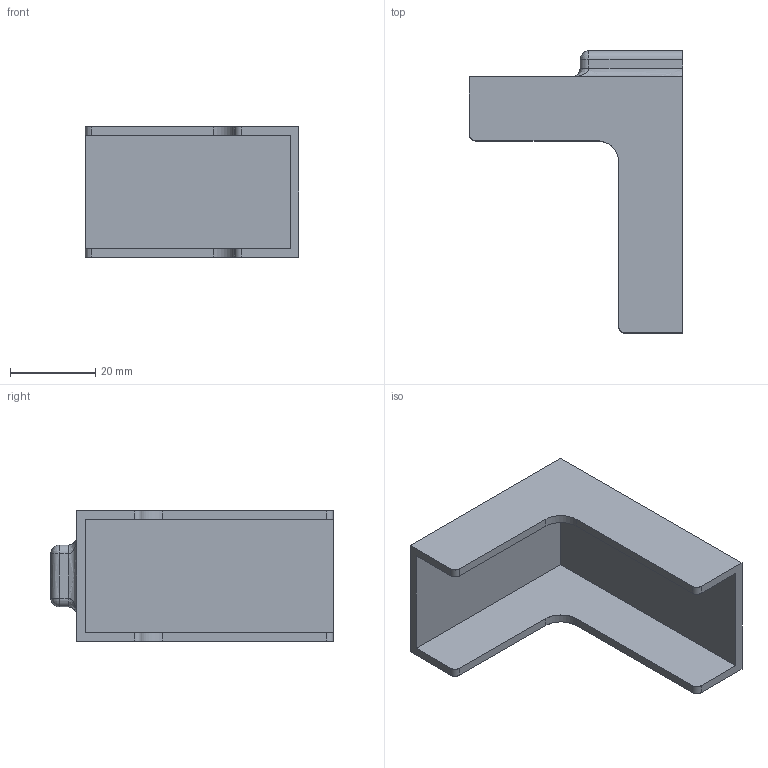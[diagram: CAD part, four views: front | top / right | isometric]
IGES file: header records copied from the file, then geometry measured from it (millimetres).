
Start section: SolidWorks IGES file using analytic representation for surfaces
Global section: file name: D:\QKloud\3D Druck\Headphone Base\Bildschirmklemme.IGS; native system: SolidWorks 2019; preprocessor: SolidWorks 2019; author: Philipp; date: 190123.132439; units: millimetre
Bounding box: 50 x 66.1 x 30.5 mm (x, y, z)
Surface area: 12934.1 mm2 (no closed solid volume)
Topology: 0 solids, 0 shells, 47 faces, 410 edges, 406 vertices
Faces by surface type: bspline 29, revolution 18
